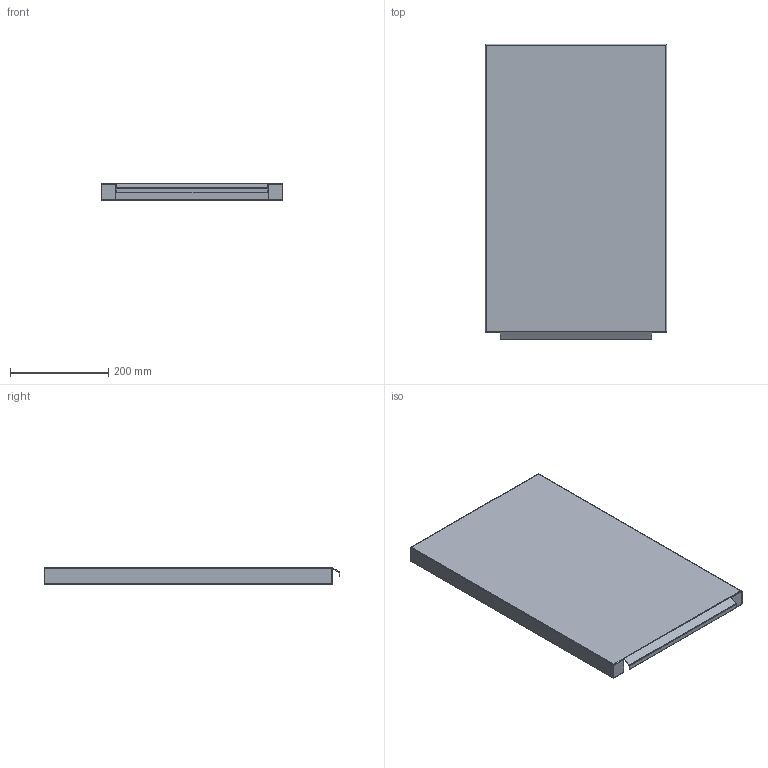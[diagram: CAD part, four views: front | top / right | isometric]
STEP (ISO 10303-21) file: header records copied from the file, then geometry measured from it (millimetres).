
FILE_DESCRIPTION(/* description */ (''),/* implementation_level */ '2;1');
FILE_NAME(/* name */ 'KZ-DK-db.0_MOCKUP.step',/* time_stamp */ '2026-03-11T16:17:53+01:00',/* author */ (''),/* organization */ (''),/* preprocessor_version */ 'ST-DEVELOPER v20.1',/* originating_system */ 'Autodesk Translation Framework v14.24.0.0',/* authorisation */ '');
FILE_SCHEMA (('AUTOMOTIVE_DESIGN { 1 0 10303 214 3 1 1 }'));
Length unit declared in the file: millimetre
Products named in the file (1): KZ-DK-db.0_MOCKUP
Bounding box: 370 x 602.5 x 35 mm (x, y, z)
Volume: 291935.2 mm3; surface area: 585850 mm2
Topology: 1 solids, 1 shells, 58 faces, 144 edges, 88 vertices
Faces by surface type: plane 30, cylinder 28
Entity records: 1718 total; most frequent: DIRECTION 302, CARTESIAN_POINT 291, ORIENTED_EDGE 288, EDGE_CURVE 144, LINE 104, VECTOR 104, AXIS2_PLACEMENT_3D 99, VERTEX_POINT 88
